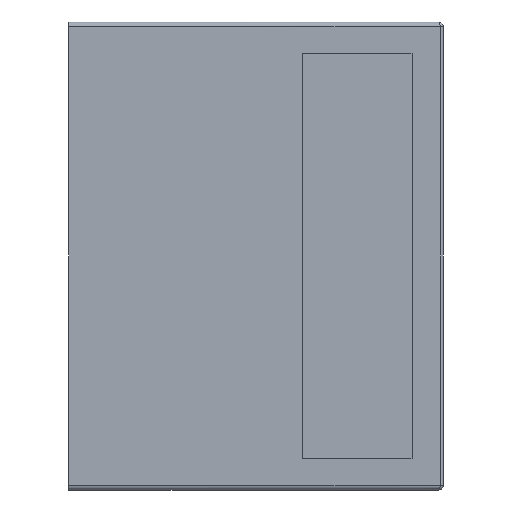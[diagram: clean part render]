
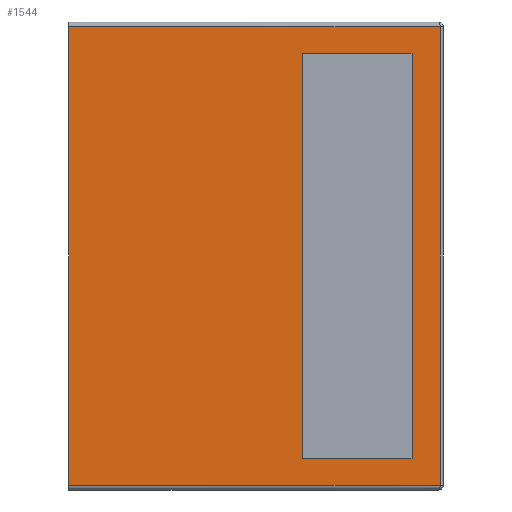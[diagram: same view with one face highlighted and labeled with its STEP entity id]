
A CAD part, front view. The second image highlights one B-rep face of the part: STEP entity #1544.
In plain terms, the highlighted planar face has unit normal (0, -1, 0).
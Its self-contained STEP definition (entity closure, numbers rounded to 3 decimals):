
#14 = EDGE_CURVE ( 'NONE', #720, #717, #505, .T. ) ;
#30 = EDGE_CURVE ( 'NONE', #709, #687, #498, .T. ) ;
#48 = EDGE_CURVE ( 'NONE', #717, #671, #453, .T. ) ;
#58 = EDGE_CURVE ( 'NONE', #657, #675, #449, .T. ) ;
#60 = EDGE_CURVE ( 'NONE', #675, #709, #432, .T. ) ;
#98 = ORIENTED_EDGE ( 'NONE', *, *, #14, .T. ) ;
#132 = ORIENTED_EDGE ( 'NONE', *, *, #60, .T. ) ;
#148 = ORIENTED_EDGE ( 'NONE', *, *, #48, .T. ) ;
#181 = ORIENTED_EDGE ( 'NONE', *, *, #1476, .T. ) ;
#194 = ORIENTED_EDGE ( 'NONE', *, *, #58, .T. ) ;
#203 = ORIENTED_EDGE ( 'NONE', *, *, #1479, .T. ) ;
#327 = FACE_OUTER_BOUND ( 'NONE', #1413, .T. ) ;
#331 = FACE_BOUND ( 'NONE', #465, .T. ) ;
#377 = VECTOR ( 'NONE', #998, 1000. ) ;
#378 = LINE ( 'NONE', #997, #377 ) ;
#379 = VECTOR ( 'NONE', #996, 1000. ) ;
#380 = LINE ( 'NONE', #995, #379 ) ;
#381 = VECTOR ( 'NONE', #994, 1000. ) ;
#382 = LINE ( 'NONE', #993, #381 ) ;
#431 = VECTOR ( 'NONE', #864, 1000. ) ;
#432 = LINE ( 'NONE', #863, #431 ) ;
#439 = VECTOR ( 'NONE', #860, 1000. ) ;
#449 = LINE ( 'NONE', #859, #439 ) ;
#451 = ORIENTED_EDGE ( 'NONE', *, *, #1478, .F. ) ;
#453 = LINE ( 'NONE', #831, #455 ) ;
#455 = VECTOR ( 'NONE', #836, 1000. ) ;
#465 = EDGE_LOOP ( 'NONE', ( #181, #98, #148, #203 ) ) ;
#489 = VECTOR ( 'NONE', #795, 1000. ) ;
#498 = LINE ( 'NONE', #787, #489 ) ;
#502 = VECTOR ( 'NONE', #756, 1000. ) ;
#505 = LINE ( 'NONE', #739, #502 ) ;
#619 = ORIENTED_EDGE ( 'NONE', *, *, #30, .T. ) ;
#657 = VERTEX_POINT ( 'NONE', #895 ) ;
#671 = VERTEX_POINT ( 'NONE', #906 ) ;
#675 = VERTEX_POINT ( 'NONE', #910 ) ;
#687 = VERTEX_POINT ( 'NONE', #922 ) ;
#701 = VERTEX_POINT ( 'NONE', #936 ) ;
#709 = VERTEX_POINT ( 'NONE', #944 ) ;
#717 = VERTEX_POINT ( 'NONE', #952 ) ;
#720 = VERTEX_POINT ( 'NONE', #955 ) ;
#739 = CARTESIAN_POINT ( 'NONE',  ( 6925.408, 1938.775, 75. ) ) ;
#756 = DIRECTION ( 'NONE',  ( 0., 0., 1. ) ) ;
#787 = CARTESIAN_POINT ( 'NONE',  ( 6850.408, 1938.775, -73.5 ) ) ;
#795 = DIRECTION ( 'NONE',  ( 1., 0., 0. ) ) ;
#831 = CARTESIAN_POINT ( 'NONE',  ( 6850.408, 1938.775, 65. ) ) ;
#836 = DIRECTION ( 'NONE',  ( 1., 0., 0. ) ) ;
#859 = CARTESIAN_POINT ( 'NONE',  ( 6850.408, 1938.775, 73.5 ) ) ;
#860 = DIRECTION ( 'NONE',  ( -1., 0., 0. ) ) ;
#863 = CARTESIAN_POINT ( 'NONE',  ( 6850.408, 1938.775, 75. ) ) ;
#864 = DIRECTION ( 'NONE',  ( 0., 0., -1. ) ) ;
#895 = CARTESIAN_POINT ( 'NONE',  ( 6969.408, 1938.775, 73.5 ) ) ;
#906 = CARTESIAN_POINT ( 'NONE',  ( 6960.408, 1938.775, 65. ) ) ;
#910 = CARTESIAN_POINT ( 'NONE',  ( 6850.408, 1938.775, 73.5 ) ) ;
#922 = CARTESIAN_POINT ( 'NONE',  ( 6969.408, 1938.775, -73.5 ) ) ;
#936 = CARTESIAN_POINT ( 'NONE',  ( 6960.408, 1938.775, -65. ) ) ;
#944 = CARTESIAN_POINT ( 'NONE',  ( 6850.408, 1938.775, -73.5 ) ) ;
#952 = CARTESIAN_POINT ( 'NONE',  ( 6925.408, 1938.775, 65. ) ) ;
#955 = CARTESIAN_POINT ( 'NONE',  ( 6925.408, 1938.775, -65. ) ) ;
#993 = CARTESIAN_POINT ( 'NONE',  ( 6850.408, 1938.775, -65. ) ) ;
#994 = DIRECTION ( 'NONE',  ( -1., 0., 0. ) ) ;
#995 = CARTESIAN_POINT ( 'NONE',  ( 6969.408, 1938.775, 75. ) ) ;
#996 = DIRECTION ( 'NONE',  ( 0., 0., -1. ) ) ;
#997 = CARTESIAN_POINT ( 'NONE',  ( 6960.408, 1938.775, 75. ) ) ;
#998 = DIRECTION ( 'NONE',  ( 0., 0., -1. ) ) ;
#1092 = PLANE ( 'NONE',  #1439 ) ;
#1093 = CARTESIAN_POINT ( 'NONE',  ( 6850.408, 1938.775, 75. ) ) ;
#1098 = DIRECTION ( 'NONE',  ( 0., 1., 0. ) ) ;
#1099 = DIRECTION ( 'NONE',  ( 0., 0., 1. ) ) ;
#1413 = EDGE_LOOP ( 'NONE', ( #132, #619, #451, #194 ) ) ;
#1439 = AXIS2_PLACEMENT_3D ( 'NONE', #1093, #1098, #1099 ) ;
#1476 = EDGE_CURVE ( 'NONE', #701, #720, #382, .T. ) ;
#1478 = EDGE_CURVE ( 'NONE', #657, #687, #380, .T. ) ;
#1479 = EDGE_CURVE ( 'NONE', #671, #701, #378, .T. ) ;
#1544 = ADVANCED_FACE ( 'NONE', ( #331, #327 ), #1092, .F. ) ;
